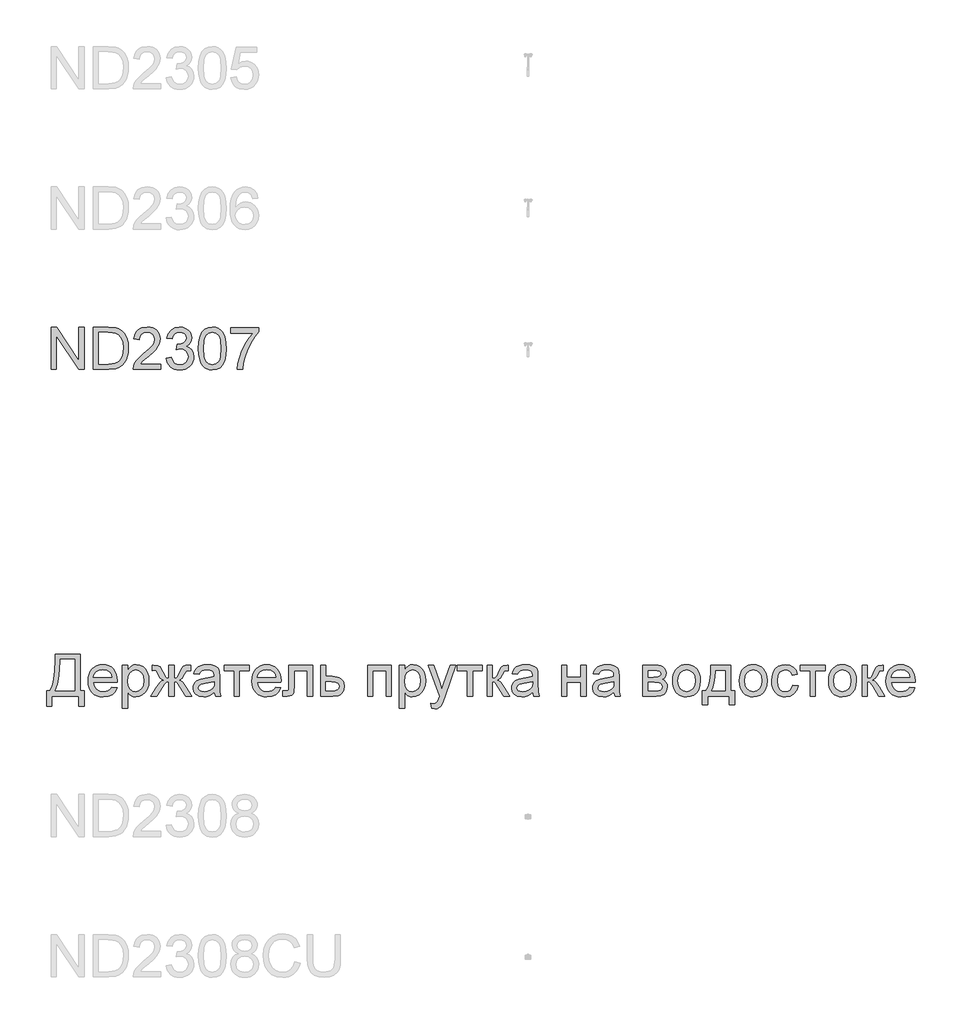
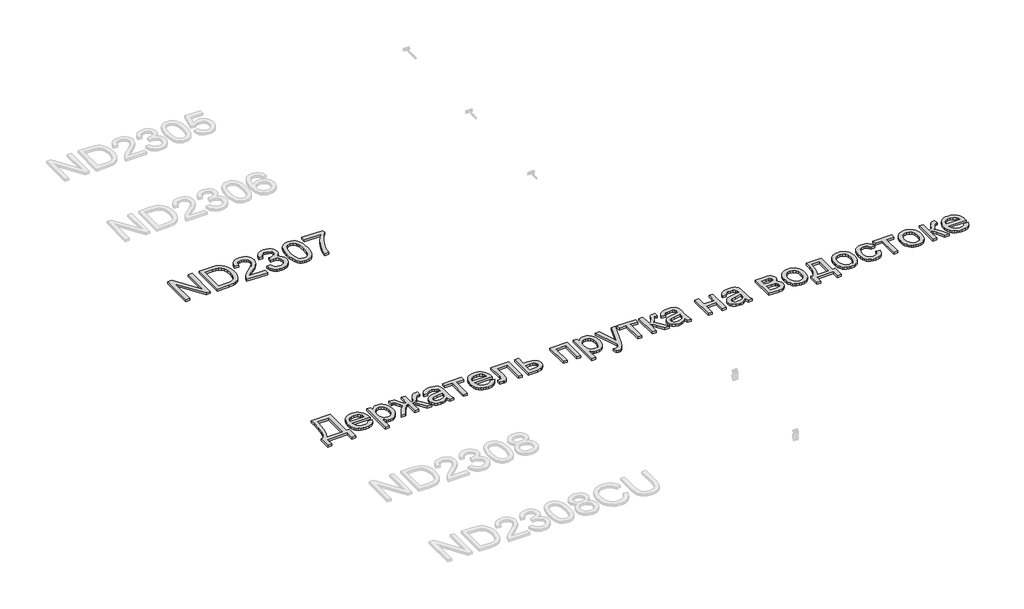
# One storey, part 115 of 124: 2 proxies.
"""IFC4 building model written with IfcOpenShell, lengths in millimetres."""

from ifc_helpers import new_model, si_unit, origin, origin_with_axes, place, context, project, spatial, polyline, outline, extrude, element, save

model = new_model("IFC4")

# Units and contexts
model_context = context("Model", 3, world=origin())
ifc_project = project(units=[si_unit("LENGTHUNIT", "METRE", prefix="MILLI")], contexts=[model_context])

# Site, building, storey
site = spatial("IfcSite", under=ifc_project)
building = spatial("IfcBuilding", under=site)
storey = spatial("IfcBuildingStorey", under=building, Name="Этаж 01", Elevation=0.0)

# Proxies
placement = place(None, origin())
element("IfcBuildingElementProxy", 1, Name="300", ObjectType="300", at=placement, inside=storey, context=model_context, shape_type="SweptSolid", body=[
    extrude(outline(polyline([(34161.4897718, -10519.5141033), (34161.4897718, -10218.1451728), (34201.8096385, -10218.1451728), (34359.2631324, -10456.9005877), (34359.2631324, -10218.1451728), (34396.9342487, -10218.1451728), (34396.9342487, -10519.5141033), (34356.6143821, -10519.5141033), (34199.1608881, -10280.685112), (34199.1608881, -10519.5141033), (34161.4897718, -10519.5141033)])), origin_with_axes(), (0.0, 0.0, 1.0), 20.0),
    extrude(outline(polyline([(34462.8587023, -10519.5141033), (34462.8587023, -10218.1451728), (34566.8221541, -10218.1451728), (34620.6065018, -10222.4861804), (34644.6291961, -10230.8554957), (34664.899494, -10244.0440653), (34685.7400091, -10266.9999018), (34700.5840476, -10295.5475446), (34709.4683977, -10329.1351708), (34712.4298478, -10367.2109573), (34710.4248909, -10399.5569817), (34704.4100203, -10428.0218511), (34695.2497586, -10452.2560775), (34683.8086286, -10471.9101731), (34670.6384532, -10487.4255962), (34656.2910553, -10499.2438053), (34639.819139, -10508.0085939), (34620.275408, -10514.3637553), (34571.8253492, -10519.5141033), (34462.8587023, -10519.5141033)]), holes=[polyline([(34500.5298186, -10481.842987), (34567.1900361, -10481.842987), (34594.7627916, -10480.4818236), (34615.6768831, -10476.3983334), (34631.4590207, -10469.8316398), (34643.6359147, -10461.020866), (34656.7233167, -10444.7144966), (34666.554963, -10423.6072671), (34672.7077894, -10397.6072071), (34674.7587315, -10366.6223461), (34670.7396207, -10325.5667154), (34658.6822883, -10295.253239), (34640.8676027, -10274.4311181), (34619.5764322, -10261.8495538), (34597.9081827, -10257.3246053), (34566.1599665, -10255.8162891), (34500.5298186, -10255.8162891), (34500.5298186, -10481.842987)])]), origin_with_axes(), (0.0, 0.0, 1.0), 20.0),
    extrude(outline(polyline([(34943.1654352, -10481.842987), (34943.1654352, -10519.5141033), (34745.3920746, -10519.5141033), (34749.4387765, -10493.5416344), (34758.7277969, -10473.2437453), (34772.3210366, -10453.5528615), (34791.9843293, -10432.9422727), (34819.4835084, -10409.8852687), (34860.1344689, -10373.7776509), (34884.5250452, -10347.1246003), (34896.7203333, -10325.493139), (34900.7854293, -10304.4502889), (34896.9502595, -10285.5871396), (34885.4447501, -10269.9061695), (34867.7588232, -10259.3387592), (34845.3824009, -10255.8162891), (34821.8839384, -10259.2559858), (34803.6277944, -10269.5750757), (34791.8463735, -10285.9642186), (34787.7720804, -10307.614074), (34750.1009641, -10302.9051845), (34759.2336346, -10266.4664729), (34767.7799932, -10251.9305355), (34778.9797007, -10239.8502105), (34792.5752397, -10230.3542565), (34808.3090928, -10223.5714322), (34846.1917413, -10218.1451728), (34866.381565, -10219.653489), (34884.3503012, -10224.1784375), (34900.0979499, -10231.7200184), (34913.624511, -10242.2782317), (34924.4885261, -10255.0713281), (34932.248537, -10269.3175583), (34936.9045435, -10285.0169225), (34938.4565456, -10302.1694205), (34936.7826826, -10320.1864412), (34931.7610933, -10337.8907622), (34922.849152, -10355.8985859), (34909.5042326, -10374.8261146), (34888.2314563, -10397.4232661), (34855.5359439, -10426.4399585), (34812.1994449, -10462.676335), (34795.2032967, -10481.842987), (34943.1654352, -10481.842987)])), origin_with_axes(), (0.0, 0.0, 1.0), 20.0),
    extrude(outline(polyline([(34980.8365515, -10439.4629811), (35018.5076678, -10434.7540916), (35026.9413625, -10458.427298), (35039.2930005, -10474.4117707), (35056.169587, -10483.51685), (35078.1781274, -10486.5518765), (35104.0034435, -10482.3764158), (35123.9426476, -10469.8500339), (35136.6897587, -10451.1616286), (35140.9387958, -10428.5000977), (35136.7265469, -10406.988198), (35124.0898004, -10389.5413944), (35104.9599367, -10377.9807027), (35081.2683362, -10374.1271388), (35054.8544089, -10378.2474171), (35059.0482637, -10340.5763008), (35065.0815284, -10341.0177592), (35087.6510888, -10338.3138265), (35107.8294162, -10330.2020285), (35122.0664494, -10316.4800301), (35126.8121272, -10296.9454962), (35123.3724305, -10280.6759149), (35113.0533406, -10267.4781484), (35097.3079912, -10258.7317539), (35077.5895162, -10255.8162891), (35057.8342531, -10258.7593451), (35041.6842335, -10267.588513), (35029.8936155, -10282.3037928), (35023.2165573, -10302.9051845), (34985.545441, -10298.196295), (34996.6370832, -10264.3695455), (35016.3739522, -10239.1144465), (35043.3764907, -10223.3874912), (35076.265141, -10218.1451728), (35099.9475445, -10220.7295438), (35121.6985674, -10228.4826569), (35140.0374849, -10240.7147332), (35153.4835718, -10256.7359941), (35161.7333256, -10275.1944732), (35164.4832435, -10294.7382042), (35161.8712813, -10312.948363), (35154.0353948, -10329.4662646), (35141.0859486, -10343.5377509), (35123.1333072, -10354.4086638), (35146.7145431, -10363.9368075), (35164.1889379, -10380.1604035), (35175.0046685, -10402.196535), (35178.6099121, -10429.1622852), (35176.8072903, -10448.2737549), (35171.399425, -10465.8769084), (35162.3863161, -10481.9717457), (35149.7679637, -10496.5582668), (35134.3950948, -10508.6615844), (35117.1184366, -10517.3068113), (35097.9379891, -10522.4939474), (35076.8537522, -10524.2229928), (35057.7974649, -10522.7468663), (35040.4334347, -10518.3184868), (35024.7616617, -10510.9378542), (35010.7821459, -10500.6049687), (34999.0605058, -10487.9268354), (34990.1623601, -10473.5104598), (34984.0877086, -10457.3558417), (34980.8365515, -10439.4629811)])), origin_with_axes(), (0.0, 0.0, 1.0), 20.0),
    extrude(outline(polyline([(35211.5721389, -10371.2576592), (35214.3404509, -10323.0191326), (35222.6453869, -10284.5478729), (35236.4041735, -10255.2552691), (35255.5340373, -10234.5527098), (35280.1729339, -10222.2470571), (35310.4588192, -10218.1451728), (35333.6721731, -10220.573194), (35354.4575058, -10227.8572575), (35371.8399301, -10239.7122548), (35384.8445586, -10255.8530773), (35394.6670079, -10276.1417694), (35402.5028944, -10300.4403751), (35407.6348482, -10331.2964775), (35409.3454995, -10371.2576592), (35406.6047786, -10419.2202743), (35398.382616, -10457.5995635), (35384.7066028, -10486.9197585), (35365.6043302, -10507.7050912), (35340.9102513, -10520.0935174), (35310.4588192, -10524.2229928), (35289.7102746, -10522.4295681), (35271.3161749, -10517.0492939), (35255.2765199, -10508.0821703), (35241.5913097, -10495.5281972), (35228.4579224, -10472.8344766), (35219.0769316, -10444.5581467), (35213.448337, -10410.6992076), (35211.5721389, -10371.2576592)]), holes=[polyline([(35249.2432552, -10371.1840828), (35253.6578391, -10430.4406752), (35259.176069, -10450.7086739), (35266.9015909, -10464.7364742), (35286.6200659, -10481.0980259), (35310.4588192, -10486.5518765), (35334.2975725, -10481.0796318), (35354.0160474, -10464.6628978), (35361.7415693, -10450.6121048), (35367.2597992, -10430.3487047), (35371.6743832, -10371.1840828), (35367.406952, -10313.2610627), (35362.0726631, -10293.0597426), (35354.6046586, -10278.6985492), (35334.9229718, -10261.5368541), (35310.0173608, -10255.8162891), (35286.4361249, -10260.8562725), (35267.4902021, -10275.9762225), (35259.5071628, -10291.6112072), (35253.8049919, -10312.6908456), (35249.2432552, -10371.1840828)])]), origin_with_axes(), (0.0, 0.0, 1.0), 20.0),
    extrude(outline(polyline([(35442.3077262, -10260.5251787), (35442.3077262, -10222.8540624), (35640.0810868, -10222.8540624), (35640.0810868, -10253.3146916), (35611.892129, -10288.990048), (35583.9790826, -10334.3590951), (35559.3585801, -10385.2831603), (35541.0472537, -10437.6235711), (35532.0709331, -10476.7846095), (35527.0677379, -10519.5141033), (35489.3966216, -10519.5141033), (35493.4709147, -10480.6841587), (35504.3694188, -10434.5333624), (35521.7978283, -10385.6142541), (35545.4618377, -10338.4793734), (35573.0897755, -10295.8694413), (35602.4099705, -10260.5251787), (35442.3077262, -10260.5251787)])), origin_with_axes(), (0.0, 0.0, 1.0), 20.0),
])
element("IfcBuildingElementProxy", 2, Name="300", ObjectType="300", at=placement, inside=storey, context=model_context, shape_type="SweptSolid", body=[
    extrude(outline(polyline([(34189.7431091, -12549.1715382), (34368.6809115, -12549.1715382), (34368.6809115, -12812.8693523), (34396.9342487, -12812.8693523), (34396.9342487, -12921.1738117), (34359.2631324, -12921.1738117), (34359.2631324, -12850.5404686), (34166.1986614, -12850.5404686), (34166.1986614, -12921.1738117), (34128.5275451, -12921.1738117), (34128.5275451, -12812.8693523), (34152.0719928, -12812.8693523), (34168.5531061, -12778.6977135), (34180.32533, -12730.6293323), (34187.3886643, -12668.6642087), (34189.7431091, -12592.8023428), (34189.7431091, -12549.1715382)]), holes=[polyline([(34331.0097952, -12586.8426545), (34227.4142254, -12586.8426545), (34227.4142254, -12601.9993927), (34219.7622799, -12705.2270805), (34208.4315144, -12764.8791461), (34189.7431091, -12812.8693523), (34331.0097952, -12812.8693523), (34331.0097952, -12586.8426545)])]), origin_with_axes(), (0.0, 0.0, 1.0), 20.0),
    extrude(outline(polyline([(34594.266151, -12784.6160151), (34631.2015033, -12789.3249046), (34617.8933721, -12817.1551776), (34596.6573839, -12837.9589044), (34567.9717854, -12850.9267447), (34532.314823, -12855.2493582), (34508.9405207, -12853.3846563), (34488.1138012, -12847.7905507), (34469.8346646, -12838.4670414), (34454.1031108, -12825.4141284), (34441.4525687, -12808.9950951), (34432.4164672, -12789.573225), (34426.9948063, -12767.1485181), (34425.187586, -12741.7209745), (34427.0132004, -12715.4312074), (34432.4900436, -12692.2592402), (34441.6181156, -12672.205073), (34454.3974164, -12655.2687056), (34470.0875835, -12641.8134216), (34487.9482543, -12632.2025045), (34507.979429, -12626.4359542), (34530.1811074, -12624.5137708), (34551.6677152, -12626.4313557), (34571.0987823, -12632.1841104), (34588.4743088, -12641.7720349), (34603.7942946, -12655.1951292), (34616.2999832, -12672.0947084), (34625.2326179, -12692.1120874), (34630.5921987, -12715.2472664), (34632.3787257, -12741.5002453), (34632.1579965, -12751.6537883), (34462.8587023, -12751.6537883), (34469.3794106, -12779.8519433), (34484.5269518, -12800.5820937), (34506.3883394, -12813.3292048), (34533.050587, -12817.5782419), (34553.1001557, -12815.6100732), (34569.9859393, -12809.7055672), (34583.7079377, -12799.4968418), (34594.266151, -12784.6160151)]), holes=[polyline([(34462.8587023, -12713.982672), (34594.7076093, -12713.982672), (34589.6124437, -12694.0802561), (34579.6244475, -12679.8432229), (34557.6618924, -12666.599471), (34530.0339546, -12662.1848871), (34504.6408999, -12665.7073572), (34483.644035, -12676.2747675), (34469.0483168, -12692.7466839), (34462.8587023, -12713.982672)])]), origin_with_axes(), (0.0, 0.0, 1.0), 20.0),
    extrude(outline(polyline([(34670.049842, -12935.3004803), (34670.049842, -12629.2226603), (34707.7209583, -12629.2226603), (34707.7209583, -12666.1580127), (34720.0082169, -12647.9386568), (34733.7670035, -12634.9248313), (34749.8066585, -12627.1165359), (34768.9365223, -12624.5137708), (34794.4123504, -12628.1558026), (34816.6876052, -12639.0818978), (34834.8241876, -12656.629869), (34847.8839984, -12680.1375285), (34855.7750672, -12707.894225), (34858.4054235, -12738.1893073), (34855.4347764, -12770.406573), (34846.522835, -12799.2209303), (34831.954708, -12823.1700482), (34812.0155039, -12840.7915958), (34788.792953, -12851.6349176), (34764.3747855, -12855.2493582), (34747.0567406, -12852.8305341), (34731.5964998, -12845.5740617), (34718.361945, -12834.6203753), (34707.7209583, -12821.109909), (34707.7209583, -12935.3004803), (34670.049842, -12935.3004803)]), holes=[polyline([(34707.7209583, -12741.6473981), (34711.7952514, -12775.4189652), (34724.0181307, -12799.0369893), (34742.0535455, -12812.9429287), (34763.5654451, -12817.5782419), (34785.4268327, -12812.7773818), (34803.9221, -12798.3748017), (34816.5312554, -12773.8922549), (34820.7343072, -12738.8514949), (34816.6324229, -12705.2638687), (34804.3267702, -12681.3147509), (34786.3189465, -12666.967353), (34765.1105495, -12662.1848871), (34743.819379, -12667.2708557), (34725.1217766, -12682.5287614), (34712.0711629, -12707.4803578), (34707.7209583, -12741.6473981)])]), origin_with_axes(), (0.0, 0.0, 1.0), 20.0),
    extrude(outline(polyline([(35037.3432259, -12629.2226603), (35037.3432259, -12723.4004511), (35050.632963, -12721.4598736), (35059.3057811, -12715.638141), (35080.0911138, -12675.3550625), (35093.0589541, -12650.2471164), (35104.8863603, -12636.727453), (35119.2521522, -12631.0988585), (35140.1294554, -12629.2226603), (35155.0654644, -12629.2226603), (35155.0654644, -12667.1145058), (35144.6911921, -12666.8937766), (35125.2670228, -12670.7933258), (35111.8025418, -12695.2206903), (35096.167557, -12722.0024995), (35073.8371199, -12735.6141333), (35086.2301446, -12740.9162326), (35098.4668194, -12750.2742309), (35122.4711196, -12781.1579243), (35164.4832435, -12850.5404686), (35121.2938972, -12850.5404686), (35079.943961, -12782.1144175), (35068.6407867, -12764.1525791), (35058.8643227, -12753.6771393), (35048.977494, -12748.6279589), (35037.3432259, -12746.9448988), (35037.3432259, -12850.5404686), (34999.6721096, -12850.5404686), (34999.6721096, -12746.9448988), (34988.129812, -12748.5911707), (34978.2245893, -12753.5299865), (34968.3745489, -12763.9318499), (34956.9977982, -12781.9672647), (34915.6478619, -12850.5404686), (34872.5320921, -12850.5404686), (34914.3970632, -12781.1579243), (34938.5853043, -12750.2742309), (34950.8863586, -12740.9162326), (34963.3253685, -12735.6141333), (34948.9411825, -12728.4036462), (34939.633768, -12720.6045479), (34919.3266819, -12681.9769384), (34909.393868, -12669.2482214), (34893.1334838, -12666.6730474), (34881.9498712, -12666.8937766), (34881.9498712, -12629.2226603), (34887.6152539, -12629.2226603), (34920.6510571, -12631.5771051), (34937.7943581, -12641.5834954), (34956.9977982, -12675.3550625), (34977.5624017, -12715.3806236), (34986.2352198, -12721.3954942), (34999.6721096, -12723.4004511), (34999.6721096, -12629.2226603), (35037.3432259, -12629.2226603)])), origin_with_axes(), (0.0, 0.0, 1.0), 20.0),
    extrude(outline(polyline([(35324.5854878, -12822.2871314), (35306.5868612, -12837.7197811), (35288.0548057, -12847.8181419), (35268.566257, -12853.3915541), (35247.6981508, -12855.2493582), (35216.2166491, -12850.7795919), (35192.9940981, -12837.3702932), (35178.6742914, -12817.0080248), (35173.9010226, -12791.6793494), (35175.7036443, -12776.0627587), (35181.1115097, -12761.8809078), (35189.4532339, -12749.740802), (35200.0574324, -12740.2494465), (35226.4345715, -12727.8886114), (35259.0289162, -12722.2232287), (35297.5461611, -12716.2635404), (35324.3647586, -12709.2737825), (35324.5854878, -12700.886073), (35321.9919197, -12684.0738658), (35314.2112155, -12673.0741942), (35296.8103971, -12664.9072139), (35272.5669737, -12662.1848871), (35250.126172, -12663.9967059), (35234.454399, -12669.4321624), (35223.767427, -12679.4845379), (35216.2810284, -12695.1471139), (35178.6099121, -12690.4382243), (35185.1490146, -12669.8368326), (35194.9070845, -12653.6500248), (35208.7946298, -12641.2707957), (35227.7221585, -12632.0921399), (35250.871133, -12626.4083631), (35277.423016, -12624.5137708), (35302.8896471, -12626.1876339), (35323.0771716, -12631.2092231), (35338.2982892, -12638.7600011), (35348.8656995, -12648.0214303), (35355.8738515, -12659.4717574), (35360.4171941, -12673.589229), (35362.2566041, -12706.5514557), (35362.2566041, -12753.4196219), (35364.1695905, -12818.8658289), (35371.6743832, -12850.5404686), (35334.0032669, -12850.5404686), (35324.5854878, -12822.2871314)]), holes=[polyline([(35324.5854878, -12746.9448988), (35263.8113822, -12758.4963934), (35231.4009784, -12764.6032346), (35216.7224868, -12774.5360484), (35211.5721389, -12789.030599), (35214.3772391, -12800.2326058), (35222.7925397, -12809.4112616), (35236.6340998, -12815.5364968), (35255.7179783, -12817.5782419), (35275.951488, -12815.3249646), (35293.830553, -12808.565133), (35308.3251036, -12798.604728), (35318.4050703, -12786.7497307), (35322.8748365, -12774.5360484), (35324.3647586, -12757.6134767), (35324.5854878, -12746.9448988)])]), origin_with_axes(), (0.0, 0.0, 1.0), 20.0),
    extrude(outline(polyline([(35395.2188309, -12629.2226603), (35574.1566333, -12629.2226603), (35574.1566333, -12666.8937766), (35503.5232902, -12666.8937766), (35503.5232902, -12850.5404686), (35465.8521739, -12850.5404686), (35465.8521739, -12666.8937766), (35395.2188309, -12666.8937766), (35395.2188309, -12629.2226603)])), origin_with_axes(), (0.0, 0.0, 1.0), 20.0),
    extrude(outline(polyline([(35762.0707564, -12784.6160151), (35799.0061088, -12789.3249046), (35785.6979776, -12817.1551776), (35764.4619894, -12837.9589044), (35735.7763908, -12850.9267447), (35700.1194285, -12855.2493582), (35676.7451262, -12853.3846563), (35655.9184067, -12847.7905507), (35637.6392701, -12838.4670414), (35621.9077163, -12825.4141284), (35609.2571742, -12808.9950951), (35600.2210727, -12789.573225), (35594.7994118, -12767.1485181), (35592.9921915, -12741.7209745), (35594.8178059, -12715.4312074), (35600.2946491, -12692.2592402), (35609.4227211, -12672.205073), (35622.2020219, -12655.2687056), (35637.892189, -12641.8134216), (35655.7528598, -12632.2025045), (35675.7840345, -12626.4359542), (35697.9857129, -12624.5137708), (35719.4723207, -12626.4313557), (35738.9033878, -12632.1841104), (35756.2789143, -12641.7720349), (35771.5989001, -12655.1951292), (35784.1045887, -12672.0947084), (35793.0372234, -12692.1120874), (35798.3968042, -12715.2472664), (35800.1833311, -12741.5002453), (35799.9626019, -12751.6537883), (35630.6633078, -12751.6537883), (35637.1840161, -12779.8519433), (35652.3315573, -12800.5820937), (35674.1929448, -12813.3292048), (35700.8551924, -12817.5782419), (35720.9047612, -12815.6100732), (35737.7905448, -12809.7055672), (35751.5125432, -12799.4968418), (35762.0707564, -12784.6160151)]), holes=[polyline([(35630.6633078, -12713.982672), (35762.5122148, -12713.982672), (35757.4170492, -12694.0802561), (35747.429053, -12679.8432229), (35725.4664979, -12666.599471), (35697.8385601, -12662.1848871), (35672.4455054, -12665.7073572), (35651.4486405, -12676.2747675), (35636.8529223, -12692.7466839), (35630.6633078, -12713.982672)])]), origin_with_axes(), (0.0, 0.0, 1.0), 20.0),
    extrude(outline(polyline([(35856.6900056, -12629.2226603), (36026.210029, -12629.2226603), (36026.210029, -12850.3197394), (35988.5389127, -12850.3197394), (35988.5389127, -12666.8937766), (35894.3611219, -12666.8937766), (35894.3611219, -12772.4759093), (35891.8227361, -12821.1834854), (35887.0678614, -12832.2107482), (35877.8800085, -12841.748089), (35863.9372809, -12848.3423737), (35844.9177818, -12850.5404686), (35814.3099998, -12848.6274823), (35814.3099998, -12812.8693523), (35831.1589951, -12812.8693523), (35848.1919315, -12810.5516958), (35854.9977484, -12803.1940559), (35856.6900056, -12770.3421937), (35856.6900056, -12629.2226603)])), origin_with_axes(), (0.0, 0.0, 1.0), 20.0),
    extrude(outline(polyline([(36082.7167034, -12629.2226603), (36120.3878197, -12629.2226603), (36120.3878197, -12709.2737825), (36163.7978952, -12709.2737825), (36201.4322233, -12713.9918691), (36216.5797644, -12719.8894773), (36229.2808903, -12728.1461288), (36239.3240688, -12738.4767151), (36246.4977677, -12750.5961276), (36252.2367268, -12780.2014312), (36247.3530933, -12807.1579844), (36232.7021929, -12829.9022887), (36221.4702957, -12838.9314924), (36207.3091382, -12845.3809237), (36170.1990419, -12850.5404686), (36082.7167034, -12850.5404686), (36082.7167034, -12629.2226603)]), holes=[polyline([(36120.3878197, -12812.8693523), (36155.5573385, -12812.8693523), (36182.8449855, -12810.8919866), (36200.9907649, -12804.9598894), (36211.1718991, -12794.8339375), (36214.5656105, -12780.2750076), (36212.0548159, -12767.9693548), (36204.522432, -12757.0984419), (36188.3816095, -12749.4832846), (36160.0454988, -12746.9448988), (36120.3878197, -12746.9448988), (36120.3878197, -12812.8693523)])]), origin_with_axes(), (0.0, 0.0, 1.0), 20.0),
    extrude(outline(polyline([(36417.0478607, -12629.2226603), (36586.567884, -12629.2226603), (36586.567884, -12850.5404686), (36548.8967677, -12850.5404686), (36548.8967677, -12666.8937766), (36454.718977, -12666.8937766), (36454.718977, -12850.5404686), (36417.0478607, -12850.5404686), (36417.0478607, -12629.2226603)])), origin_with_axes(), (0.0, 0.0, 1.0), 20.0),
    extrude(outline(polyline([(36643.0745585, -12935.3004803), (36643.0745585, -12629.2226603), (36680.7456748, -12629.2226603), (36680.7456748, -12666.1580127), (36693.0329334, -12647.9386568), (36706.7917201, -12634.9248313), (36722.831375, -12627.1165359), (36741.9612388, -12624.5137708), (36767.437067, -12628.1558026), (36789.7123218, -12639.0818978), (36807.8489041, -12656.629869), (36820.908715, -12680.1375285), (36828.7997838, -12707.894225), (36831.43014, -12738.1893073), (36828.4594929, -12770.406573), (36819.5475516, -12799.2209303), (36804.9794246, -12823.1700482), (36785.0402204, -12840.7915958), (36761.8176695, -12851.6349176), (36737.3995021, -12855.2493582), (36720.0814571, -12852.8305341), (36704.6212163, -12845.5740617), (36691.3866615, -12834.6203753), (36680.7456748, -12821.109909), (36680.7456748, -12935.3004803), (36643.0745585, -12935.3004803)]), holes=[polyline([(36680.7456748, -12741.6473981), (36684.8199679, -12775.4189652), (36697.0428472, -12799.0369893), (36715.078262, -12812.9429287), (36736.5901617, -12817.5782419), (36758.4515492, -12812.7773818), (36776.9468165, -12798.3748017), (36789.5559719, -12773.8922549), (36793.7590237, -12738.8514949), (36789.6571395, -12705.2638687), (36777.3514867, -12681.3147509), (36759.3436631, -12666.967353), (36738.135266, -12662.1848871), (36716.8440956, -12667.2708557), (36698.1464932, -12682.5287614), (36685.0958794, -12707.4803578), (36680.7456748, -12741.6473981)])]), origin_with_axes(), (0.0, 0.0, 1.0), 20.0),
    extrude(outline(polyline([(36873.8101459, -12935.3004803), (36869.1012563, -12899.0273156), (36888.2311201, -12902.3382536), (36906.110185, -12898.181187), (36917.0730685, -12886.5929042), (36927.3737644, -12858.8546017), (36930.3168203, -12849.7311282), (36850.2656982, -12629.2226603), (36889.9969537, -12629.2226603), (36932.4505359, -12752.0952467), (36947.2393921, -12801.2442813), (36962.0282483, -12757.8342059), (37005.6590529, -12629.2226603), (37045.0960028, -12629.2226603), (36968.061513, -12855.8379694), (36948.0487325, -12904.9870039), (36937.8032189, -12920.677171), (36926.196542, -12931.548084), (36912.7136669, -12937.8940484), (36896.8395588, -12940.0093699), (36873.8101459, -12935.3004803)])), origin_with_axes(), (0.0, 0.0, 1.0), 20.0),
    extrude(outline(polyline([(37057.4568379, -12629.2226603), (37236.3946403, -12629.2226603), (37236.3946403, -12666.8937766), (37165.7612972, -12666.8937766), (37165.7612972, -12850.5404686), (37128.0901809, -12850.5404686), (37128.0901809, -12666.8937766), (37057.4568379, -12666.8937766), (37057.4568379, -12629.2226603)])), origin_with_axes(), (0.0, 0.0, 1.0), 20.0),
    extrude(outline(polyline([(37269.3568671, -12629.2226603), (37307.0279834, -12629.2226603), (37307.0279834, -12723.4004511), (37322.3502685, -12721.7081939), (37332.2646883, -12716.6314224), (37341.0386738, -12703.3876706), (37352.9396564, -12677.1944725), (37370.1197456, -12643.165388), (37385.2764838, -12632.0921399), (37412.8308452, -12629.2226603), (37420.0413323, -12629.2226603), (37420.0413323, -12667.1145058), (37409.8877892, -12666.8937766), (37391.4936895, -12670.8669022), (37378.5442433, -12695.6621487), (37363.3507169, -12722.4807461), (37342.0503493, -12735.6141333), (37353.9881201, -12740.9162326), (37365.8155262, -12750.2742309), (37389.1392447, -12781.1579243), (37429.4591114, -12850.5404686), (37386.6376471, -12850.5404686), (37347.1271209, -12782.6294523), (37327.2614931, -12753.8978685), (37317.9724727, -12748.6831412), (37307.0279834, -12746.9448988), (37307.0279834, -12850.5404686), (37269.3568671, -12850.5404686), (37269.3568671, -12629.2226603)])), origin_with_axes(), (0.0, 0.0, 1.0), 20.0),
    extrude(outline(polyline([(37594.2702452, -12822.2871314), (37576.2716186, -12837.7197811), (37557.7395631, -12847.8181419), (37538.2510144, -12853.3915541), (37517.3829082, -12855.2493582), (37485.9014065, -12850.7795919), (37462.6788555, -12837.3702932), (37448.3590489, -12817.0080248), (37443.58578, -12791.6793494), (37445.3884018, -12776.0627587), (37450.7962671, -12761.8809078), (37459.1379913, -12749.740802), (37469.7421899, -12740.2494465), (37496.1193289, -12727.8886114), (37528.7136737, -12722.2232287), (37567.2309186, -12716.2635404), (37594.049516, -12709.2737825), (37594.2702452, -12700.886073), (37591.6766772, -12684.0738658), (37583.895973, -12673.0741942), (37566.4951546, -12664.9072139), (37542.2517311, -12662.1848871), (37519.8109294, -12663.9967059), (37504.1391564, -12669.4321624), (37493.4521844, -12679.4845379), (37485.9657858, -12695.1471139), (37448.2946695, -12690.4382243), (37454.833772, -12669.8368326), (37464.5918419, -12653.6500248), (37478.4793872, -12641.2707957), (37497.4069159, -12632.0921399), (37520.5558904, -12626.4083631), (37547.1077734, -12624.5137708), (37572.5744046, -12626.1876339), (37592.761929, -12631.2092231), (37607.9830466, -12638.7600011), (37618.5504569, -12648.0214303), (37625.5586089, -12659.4717574), (37630.1019516, -12673.589229), (37631.9413615, -12706.5514557), (37631.9413615, -12753.4196219), (37633.8543479, -12818.8658289), (37641.3591406, -12850.5404686), (37603.6880243, -12850.5404686), (37594.2702452, -12822.2871314)]), holes=[polyline([(37594.2702452, -12746.9448988), (37533.4961396, -12758.4963934), (37501.0857358, -12764.6032346), (37486.4072442, -12774.5360484), (37481.2568963, -12789.030599), (37484.0619965, -12800.2326058), (37492.4772972, -12809.4112616), (37506.3188572, -12815.5364968), (37525.4027357, -12817.5782419), (37545.6362455, -12815.3249646), (37563.5153104, -12808.565133), (37578.009861, -12798.604728), (37588.0898277, -12786.7497307), (37592.5595939, -12774.5360484), (37594.049516, -12757.6134767), (37594.2702452, -12746.9448988)])]), origin_with_axes(), (0.0, 0.0, 1.0), 20.0),
    extrude(outline(polyline([(37801.4613849, -12629.2226603), (37839.1325012, -12629.2226603), (37839.1325012, -12713.982672), (37938.0191815, -12713.982672), (37938.0191815, -12629.2226603), (37975.6902978, -12629.2226603), (37975.6902978, -12850.5404686), (37938.0191815, -12850.5404686), (37938.0191815, -12751.6537883), (37839.1325012, -12751.6537883), (37839.1325012, -12850.5404686), (37801.4613849, -12850.5404686), (37801.4613849, -12629.2226603)])), origin_with_axes(), (0.0, 0.0, 1.0), 20.0),
    extrude(outline(polyline([(38173.4636584, -12822.2871314), (38155.4650318, -12837.7197811), (38136.9329763, -12847.8181419), (38117.4444276, -12853.3915541), (38096.5763214, -12855.2493582), (38065.0948197, -12850.7795919), (38041.8722688, -12837.3702932), (38027.5524621, -12817.0080248), (38022.7791932, -12791.6793494), (38024.581815, -12776.0627587), (38029.9896803, -12761.8809078), (38038.3314046, -12749.740802), (38048.9356031, -12740.2494465), (38075.3127421, -12727.8886114), (38107.9070869, -12722.2232287), (38146.4243318, -12716.2635404), (38173.2429292, -12709.2737825), (38173.4636584, -12700.886073), (38170.8700904, -12684.0738658), (38163.0893862, -12673.0741942), (38145.6885678, -12664.9072139), (38121.4451443, -12662.1848871), (38099.0043426, -12663.9967059), (38083.3325696, -12669.4321624), (38072.6455977, -12679.4845379), (38065.159199, -12695.1471139), (38027.4880827, -12690.4382243), (38034.0271852, -12669.8368326), (38043.7852551, -12653.6500248), (38057.6728004, -12641.2707957), (38076.6003291, -12632.0921399), (38099.7493036, -12626.4083631), (38126.3011866, -12624.5137708), (38151.7678178, -12626.1876339), (38171.9553422, -12631.2092231), (38187.1764598, -12638.7600011), (38197.7438701, -12648.0214303), (38204.7520221, -12659.4717574), (38209.2953648, -12673.589229), (38211.1347747, -12706.5514557), (38211.1347747, -12753.4196219), (38213.0477611, -12818.8658289), (38220.5525538, -12850.5404686), (38182.8814375, -12850.5404686), (38173.4636584, -12822.2871314)]), holes=[polyline([(38173.4636584, -12746.9448988), (38112.6895528, -12758.4963934), (38080.2791491, -12764.6032346), (38065.6006574, -12774.5360484), (38060.4503095, -12789.030599), (38063.2554097, -12800.2326058), (38071.6707104, -12809.4112616), (38085.5122704, -12815.5364968), (38104.5961489, -12817.5782419), (38124.8296587, -12815.3249646), (38142.7087236, -12808.565133), (38157.2032742, -12798.604728), (38167.2832409, -12786.7497307), (38171.7530072, -12774.5360484), (38173.2429292, -12757.6134767), (38173.4636584, -12746.9448988)])]), origin_with_axes(), (0.0, 0.0, 1.0), 20.0),
    extrude(outline(polyline([(38380.6547981, -12629.2226603), (38463.6489762, -12629.2226603), (38490.3296179, -12630.4826562), (38509.155979, -12634.2626437), (38523.0067361, -12641.3995544), (38534.7605659, -12652.7303198), (38542.7895904, -12667.4915849), (38545.465932, -12684.9199944), (38543.8472512, -12698.9638896), (38538.9912088, -12711.0764043), (38530.8794108, -12721.3127208), (38519.4934631, -12729.7280214), (38533.4361907, -12737.5547109), (38544.8037444, -12750.1454722), (38552.3637194, -12766.5070239), (38554.883711, -12785.6460847), (38548.5009584, -12814.3592744), (38533.3258261, -12834.57439), (38509.3031318, -12846.548949), (38476.3776933, -12850.5404686), (38380.6547981, -12850.5404686), (38380.6547981, -12629.2226603)]), holes=[polyline([(38418.3259144, -12713.982672), (38455.5555723, -12713.982672), (38486.2737189, -12712.0696857), (38501.2097279, -12704.4177402), (38506.1485437, -12698.0901698), (38507.7948156, -12690.5853771), (38504.906942, -12679.3465822), (38496.243321, -12672.117701), (38480.5899421, -12668.1997577), (38456.7327947, -12666.8937766), (38418.3259144, -12666.8937766), (38418.3259144, -12713.982672)]), polyline([(38418.3259144, -12812.8693523), (38464.531893, -12812.8693523), (38489.7134156, -12811.1678981), (38505.5139473, -12806.0635354), (38513.9936273, -12796.7837121), (38517.2125947, -12782.5558759), (38515.603111, -12773.1288998), (38510.7746598, -12764.4192936), (38503.3618376, -12757.6042796), (38493.9992408, -12753.8610803), (38460.8530731, -12751.6537883), (38418.3259144, -12751.6537883), (38418.3259144, -12812.8693523)])]), origin_with_axes(), (0.0, 0.0, 1.0), 20.0),
    extrude(outline(polyline([(38592.5548273, -12739.8815645), (38594.5919739, -12711.2189585), (38600.7034135, -12686.5202811), (38610.8891463, -12665.7855321), (38625.1491721, -12649.0147117), (38639.505767, -12638.29555), (38655.3522839, -12630.639006), (38672.6887229, -12626.0450796), (38691.515084, -12624.5137708), (38712.2981175, -12626.3784727), (38731.0899897, -12631.9725783), (38747.8907005, -12641.2960876), (38762.7002501, -12654.3490006), (38774.7874729, -12670.689859), (38783.4212035, -12689.8772043), (38788.6014418, -12711.9110365), (38790.3281879, -12736.7913557), (38787.2747674, -12774.8487481), (38778.1145057, -12803.8194553), (38763.1141173, -12825.5152959), (38742.5403168, -12841.748089), (38718.1037552, -12851.8740409), (38691.515084, -12855.2493582), (38670.4285479, -12853.3915541), (38651.4619318, -12847.8181419), (38634.6152357, -12838.5291215), (38619.8884596, -12825.524493), (38607.9299955, -12809.0249855), (38599.3882354, -12789.2513282), (38594.2631794, -12766.2035212), (38592.5548273, -12739.8815645)]), holes=[polyline([(38630.2259436, -12739.8079881), (38634.5853453, -12773.901452), (38647.6635502, -12798.1908607), (38667.345237, -12812.7313966), (38691.515084, -12817.5782419), (38715.5745665, -12812.7038054), (38735.2194651, -12798.0804961), (38748.29767, -12773.4691906), (38752.6570716, -12738.6307657), (38748.2700788, -12705.5305832), (38735.1091005, -12681.5722683), (38715.4366108, -12667.0317324), (38691.515084, -12662.1848871), (38667.345237, -12667.0133383), (38647.6635502, -12681.4986919), (38634.5853453, -12705.7329183), (38630.2259436, -12739.8079881)])]), origin_with_axes(), (0.0, 0.0, 1.0), 20.0),
    extrude(outline(polyline([(38865.6704206, -12629.2226603), (39006.9371067, -12629.2226603), (39006.9371067, -12812.8693523), (39035.1904439, -12812.8693523), (39035.1904439, -12911.7560326), (38997.5193276, -12911.7560326), (38997.5193276, -12850.5404686), (38842.1259729, -12850.5404686), (38842.1259729, -12911.7560326), (38804.4548566, -12911.7560326), (38804.4548566, -12812.8693523), (38827.9993042, -12812.8693523), (38845.1150141, -12781.9396736), (38857.0987701, -12741.0219987), (38863.9505722, -12690.1163276), (38865.6704206, -12629.2226603)]), holes=[polyline([(38898.6326473, -12666.8937766), (38895.5424386, -12713.0169818), (38889.8034794, -12752.7206461), (38881.4157699, -12786.0047696), (38870.3793101, -12812.8693523), (38969.2659904, -12812.8693523), (38969.2659904, -12666.8937766), (38898.6326473, -12666.8937766)])]), origin_with_axes(), (0.0, 0.0, 1.0), 20.0),
    extrude(outline(polyline([(39068.1526707, -12739.8815645), (39070.1898172, -12711.2189585), (39076.3012569, -12686.5202811), (39086.4869896, -12665.7855321), (39100.7470155, -12649.0147117), (39115.1036103, -12638.29555), (39130.9501273, -12630.639006), (39148.2865663, -12626.0450796), (39167.1129274, -12624.5137708), (39187.8959609, -12626.3784727), (39206.687833, -12631.9725783), (39223.4885439, -12641.2960876), (39238.2980935, -12654.3490006), (39250.3853163, -12670.689859), (39259.0190468, -12689.8772043), (39264.1992852, -12711.9110365), (39265.9260313, -12736.7913557), (39262.8726107, -12774.8487481), (39253.7123491, -12803.8194553), (39238.7119607, -12825.5152959), (39218.1381601, -12841.748089), (39193.7015986, -12851.8740409), (39167.1129274, -12855.2493582), (39146.0263913, -12853.3915541), (39127.0597752, -12847.8181419), (39110.2130791, -12838.5291215), (39095.4863029, -12825.524493), (39083.5278388, -12809.0249855), (39074.9860788, -12789.2513282), (39069.8610227, -12766.2035212), (39068.1526707, -12739.8815645)]), holes=[polyline([(39105.823787, -12739.8079881), (39110.1831886, -12773.901452), (39123.2613936, -12798.1908607), (39142.9430803, -12812.7313966), (39167.1129274, -12817.5782419), (39191.1724099, -12812.7038054), (39210.8173084, -12798.0804961), (39223.8955134, -12773.4691906), (39228.254915, -12738.6307657), (39223.8679222, -12705.5305832), (39210.7069438, -12681.5722683), (39191.0344541, -12667.0317324), (39167.1129274, -12662.1848871), (39142.9430803, -12667.0133383), (39123.2613936, -12681.4986919), (39110.1831886, -12705.7329183), (39105.823787, -12739.8079881)])]), origin_with_axes(), (0.0, 0.0, 1.0), 20.0),
    extrude(outline(polyline([(39449.5727233, -12770.4893465), (39487.2438396, -12775.198236), (39476.7408086, -12808.7030887), (39457.0039396, -12834.0225671), (39429.8910366, -12849.9426604), (39397.2599036, -12855.2493582), (39376.1319807, -12853.3984519), (39357.1883573, -12847.845733), (39340.4290331, -12838.5912016), (39325.8540083, -12825.6348576), (39314.0564926, -12809.2204228), (39305.6296956, -12789.5916191), (39300.5736175, -12766.7484464), (39298.8882581, -12740.6909049), (39301.7669347, -12707.1676581), (39310.4029645, -12678.1141775), (39324.9343033, -12654.6525033), (39345.4989069, -12637.9046754), (39370.1010153, -12627.861497), (39396.7448688, -12624.5137708), (39428.5758584, -12629.1122957), (39454.0240954, -12642.9078706), (39472.2802395, -12665.1647313), (39482.5349501, -12695.1471139), (39444.8638338, -12699.8560034), (39438.0304257, -12683.4208753), (39427.389439, -12671.6394544), (39413.5294848, -12664.5485289), (39397.0391744, -12662.1848871), (39372.6945834, -12666.8385943), (39353.3715816, -12680.7997161), (39340.7624262, -12704.8224103), (39336.5593744, -12739.6608353), (39340.6704557, -12774.9683098), (39353.0036996, -12799.0737775), (39371.9772135, -12812.9521258), (39396.0091048, -12817.5782419), (39415.5160476, -12814.6903682), (39431.5097173, -12806.0267472), (39443.1439854, -12791.3666497), (39449.5727233, -12770.4893465)])), origin_with_axes(), (0.0, 0.0, 1.0), 20.0),
    extrude(outline(polyline([(39501.3705082, -12629.2226603), (39680.3083107, -12629.2226603), (39680.3083107, -12666.8937766), (39609.6749676, -12666.8937766), (39609.6749676, -12850.5404686), (39572.0038513, -12850.5404686), (39572.0038513, -12666.8937766), (39501.3705082, -12666.8937766), (39501.3705082, -12629.2226603)])), origin_with_axes(), (0.0, 0.0, 1.0), 20.0),
    extrude(outline(polyline([(39703.8527584, -12739.8815645), (39705.8899049, -12711.2189585), (39712.0013446, -12686.5202811), (39722.1870773, -12665.7855321), (39736.4471031, -12649.0147117), (39750.803698, -12638.29555), (39766.6502149, -12630.639006), (39783.986654, -12626.0450796), (39802.8130151, -12624.5137708), (39823.5960485, -12626.3784727), (39842.3879207, -12631.9725783), (39859.1886316, -12641.2960876), (39873.9981811, -12654.3490006), (39886.0854039, -12670.689859), (39894.7191345, -12689.8772043), (39899.8993729, -12711.9110365), (39901.626119, -12736.7913557), (39898.5726984, -12774.8487481), (39889.4124367, -12803.8194553), (39874.4120484, -12825.5152959), (39853.8382478, -12841.748089), (39829.4016863, -12851.8740409), (39802.8130151, -12855.2493582), (39781.726479, -12853.3915541), (39762.7598628, -12847.8181419), (39745.9131667, -12838.5291215), (39731.1863906, -12825.524493), (39719.2279265, -12809.0249855), (39710.6861664, -12789.2513282), (39705.5611104, -12766.2035212), (39703.8527584, -12739.8815645)]), holes=[polyline([(39741.5238747, -12739.8079881), (39745.8832763, -12773.901452), (39758.9614812, -12798.1908607), (39778.643168, -12812.7313966), (39802.8130151, -12817.5782419), (39826.8724976, -12812.7038054), (39846.5173961, -12798.0804961), (39859.595601, -12773.4691906), (39863.9550027, -12738.6307657), (39859.5680099, -12705.5305832), (39846.4070315, -12681.5722683), (39826.7345418, -12667.0317324), (39802.8130151, -12662.1848871), (39778.643168, -12667.0133383), (39758.9614812, -12681.4986919), (39745.8832763, -12705.7329183), (39741.5238747, -12739.8079881)])]), origin_with_axes(), (0.0, 0.0, 1.0), 20.0),
    extrude(outline(polyline([(39944.0061248, -12629.2226603), (39981.6772411, -12629.2226603), (39981.6772411, -12723.4004511), (39996.9995262, -12721.7081939), (40006.913946, -12716.6314224), (40015.6879316, -12703.3876706), (40027.5889141, -12677.1944725), (40044.7690033, -12643.165388), (40059.9257415, -12632.0921399), (40087.4801029, -12629.2226603), (40094.69059, -12629.2226603), (40094.69059, -12667.1145058), (40084.537047, -12666.8937766), (40066.1429472, -12670.8669022), (40053.193501, -12695.6621487), (40037.9999746, -12722.4807461), (40016.6996071, -12735.6141333), (40028.6373778, -12740.9162326), (40040.464784, -12750.2742309), (40063.7885024, -12781.1579243), (40104.1083691, -12850.5404686), (40061.2869049, -12850.5404686), (40021.7763786, -12782.6294523), (40001.9107509, -12753.8978685), (39992.6217305, -12748.6831412), (39981.6772411, -12746.9448988), (39981.6772411, -12850.5404686), (39944.0061248, -12850.5404686), (39944.0061248, -12629.2226603)])), origin_with_axes(), (0.0, 0.0, 1.0), 20.0),
    extrude(outline(polyline([(40282.6047132, -12784.6160151), (40319.5400655, -12789.3249046), (40306.2319343, -12817.1551776), (40284.9959461, -12837.9589044), (40256.3103476, -12850.9267447), (40220.6533852, -12855.2493582), (40197.2790829, -12853.3846563), (40176.4523635, -12847.7905507), (40158.1732268, -12838.4670414), (40142.441673, -12825.4141284), (40129.7911309, -12808.9950951), (40120.7550294, -12789.573225), (40115.3333685, -12767.1485181), (40113.5261482, -12741.7209745), (40115.3517626, -12715.4312074), (40120.8286058, -12692.2592402), (40129.9566778, -12672.205073), (40142.7359786, -12655.2687056), (40158.4261457, -12641.8134216), (40176.2868166, -12632.2025045), (40196.3179912, -12626.4359542), (40218.5196696, -12624.5137708), (40240.0062774, -12626.4313557), (40259.4373445, -12632.1841104), (40276.812871, -12641.7720349), (40292.1328569, -12655.1951292), (40304.6385454, -12672.0947084), (40313.5711801, -12692.1120874), (40318.9307609, -12715.2472664), (40320.7172879, -12741.5002453), (40320.4965587, -12751.6537883), (40151.1972645, -12751.6537883), (40157.7179729, -12779.8519433), (40172.865514, -12800.5820937), (40194.7269016, -12813.3292048), (40221.3891492, -12817.5782419), (40241.4387179, -12815.6100732), (40258.3245015, -12809.7055672), (40272.0464999, -12799.4968418), (40282.6047132, -12784.6160151)]), holes=[polyline([(40151.1972645, -12713.982672), (40283.0461716, -12713.982672), (40277.9510059, -12694.0802561), (40267.9630098, -12679.8432229), (40246.0004547, -12666.599471), (40218.3725168, -12662.1848871), (40192.9794621, -12665.7073572), (40171.9825972, -12676.2747675), (40157.3868791, -12692.7466839), (40151.1972645, -12713.982672)])]), origin_with_axes(), (0.0, 0.0, 1.0), 20.0),
])

save(model, "model.ifc")
